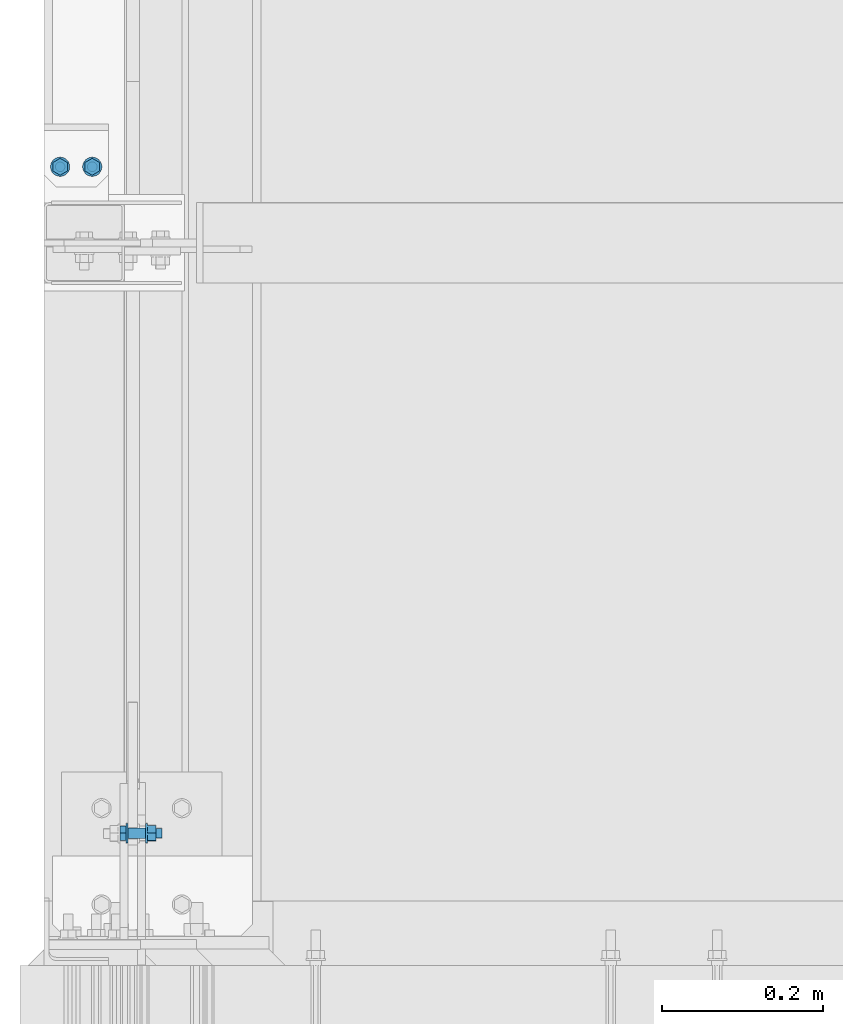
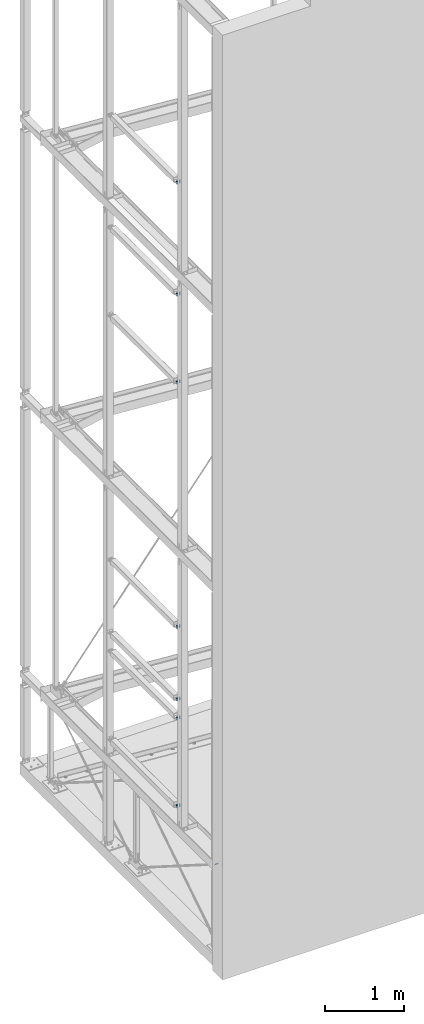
# One storey, part 230 of 271: 8 mechanical fasteners, 8 elements without a shape of their own.
"""IFC2X3 building model written with IfcOpenShell, lengths in millimetres."""

import ifcopenshell
import ifcopenshell.guid

model = None  # the IFC model being written
_history = None  # IfcOwnerHistory: only IFC2X3 demands one
_inside = {}  # id of a spatial element -> (the spatial element, [elements in it])
_under = {}  # id of a project, library or spatial element -> (it, [spatial elements below it])
_declared = {}  # id of a project -> (the project, [libraries it declares])
_typed = {}  # id of a type object -> (the type object, [elements of that type])
_made_of = {}  # id of a material, layer set ... -> (it, [elements and type objects made of it])


def new_model(schema):
    """Start an empty IFC model of exactly this schema.

    Asked for "IFC4X3", IfcOpenShell would pick the latest addendum, in which some entities
    have other attributes; the version numbers below select the first issue.
    IFC2X3 requires an IfcOwnerHistory on every rooted entity: one is made here for all.
    """
    global model, _history
    if schema == "IFC4X3":
        model = ifcopenshell.file(schema_version=(4, 3, 0, 0))
    else:
        model = ifcopenshell.file(schema=schema)
    _inside.clear()
    _under.clear()
    _declared.clear()
    _typed.clear()
    _made_of.clear()
    _history = None
    if model.schema == "IFC2X3":
        org = make("IfcOrganization", Name="unknown")
        user = make(
            "IfcPersonAndOrganization",
            ThePerson=make("IfcPerson", FamilyName="unknown"),
            TheOrganization=org,
        )
        app = make(
            "IfcApplication",
            ApplicationDeveloper=org,
            Version="unknown",
            ApplicationFullName="unknown",
            ApplicationIdentifier="unknown",
        )
        _history = make(
            "IfcOwnerHistory",
            OwningUser=user,
            OwningApplication=app,
            ChangeAction="ADDED",
            CreationDate=0,
        )
    return model


def make(cls, **values):
    """One entity of the class cls with the attributes given. An attribute that is None is left unset."""
    return model.create_entity(
        cls, **{name: value for name, value in values.items() if value is not None}
    )


def rooted(cls, **values):
    """An entity with a GlobalId (a new one), such as an element, a storey or a relation."""
    return make(cls, GlobalId=ifcopenshell.guid.new(), OwnerHistory=_history, **values)


def si_unit(unit_type, name, prefix=None):
    """IfcSIUnit, for example si_unit("LENGTHUNIT", "METRE", prefix="MILLI")."""
    return make("IfcSIUnit", UnitType=unit_type, Prefix=prefix, Name=name)


def assignment(units):
    """IfcUnitAssignment: the units of a project."""
    return None if units is None else make("IfcUnitAssignment", Units=units)


def point(xyz):
    """IfcCartesianPoint."""
    return None if xyz is None else make("IfcCartesianPoint", Coordinates=xyz)


def direction(xyz):
    """IfcDirection."""
    return None if xyz is None else make("IfcDirection", DirectionRatios=xyz)


def frame(location, z_axis=None, x_axis=None):
    """IfcAxis2Placement3D, a coordinate frame: its origin and axes. An axis left out is left unset."""
    return make(
        "IfcAxis2Placement3D",
        Location=point(location),
        Axis=direction(z_axis),
        RefDirection=direction(x_axis),
    )


def frame_2d(location, x_axis=None):
    """IfcAxis2Placement2D, a coordinate frame in the plane: its origin and x axis."""
    return make(
        "IfcAxis2Placement2D", Location=point(location), RefDirection=direction(x_axis)
    )


def origin_with_axes():
    """The frame at (0, 0, 0) with the z axis (0, 0, 1) and the x axis (1, 0, 0) written out."""
    return frame((0.0, 0.0, 0.0), z_axis=(0.0, 0.0, 1.0), x_axis=(1.0, 0.0, 0.0))


def origin_2d_with_axis():
    """The frame at (0, 0) in the plane with the x axis (1, 0) written out."""
    return frame_2d((0.0, 0.0), x_axis=(1.0, 0.0))


def place(relative_to, where):
    """IfcLocalPlacement: puts the frame where relative to a parent placement (None: the world)."""
    return make(
        "IfcLocalPlacement", PlacementRelTo=relative_to, RelativePlacement=where
    )


def context(
    kind, dimensions, precision=None, world=None, true_north=None, identifier=None
):
    """IfcGeometricRepresentationContext, for example the 3D "Model" context."""
    return make(
        "IfcGeometricRepresentationContext",
        ContextIdentifier=identifier,
        ContextType=kind,
        CoordinateSpaceDimension=dimensions,
        Precision=precision,
        WorldCoordinateSystem=world,
        TrueNorth=true_north,
    )


def subcontext(parent, identifier, kind, view, scale=None):
    """IfcGeometricRepresentationSubContext, for example "Body" below "Model"."""
    return make(
        "IfcGeometricRepresentationSubContext",
        ContextIdentifier=identifier,
        ContextType=kind,
        ParentContext=parent,
        TargetScale=scale,
        TargetView=view,
    )


def project(units=None, contexts=None):
    """IfcProject with its units and contexts."""
    return rooted(
        "IfcProject",
        Name="project",
        RepresentationContexts=contexts,
        UnitsInContext=assignment(units),
    )


def spatial(cls, under=None, at=None, **own):
    """A site, building, storey or space (cls), placed at a placement, below another one or the project."""
    s = rooted(cls, ObjectPlacement=at, **own)
    if under is not None:
        _under.setdefault(under.id(), (under, []))[1].append(s)
    return s


def polyline(points):
    """IfcPolyline through the points."""
    return make("IfcPolyline", Points=[point(p) for p in points])


def profile(cls, at=None, kind="AREA", **sizes):
    """A parametric profile (cls). Its sizes go by their IFC names, for example OverallWidth=200.0."""
    return make(cls, ProfileType=kind, Position=at, **sizes)


def circle(**sizes):
    """IfcCircleProfileDef."""
    return profile("IfcCircleProfileDef", **sizes)


def outline(outer, holes=None, kind="AREA"):
    """IfcArbitraryClosedProfileDef: a profile drawn as a closed curve; with holes, ...WithVoids."""
    if holes is None:
        return make("IfcArbitraryClosedProfileDef", ProfileType=kind, OuterCurve=outer)
    return make(
        "IfcArbitraryProfileDefWithVoids",
        ProfileType=kind,
        OuterCurve=outer,
        InnerCurves=holes,
    )


def extrude(swept, where, along, depth):
    """IfcExtrudedAreaSolid: the profile swept, set in the frame where, extruded along a direction by depth."""
    return make(
        "IfcExtrudedAreaSolid",
        SweptArea=swept,
        Position=where,
        ExtrudedDirection=direction(along),
        Depth=depth,
    )


def shape(context_of_items, identifier, shape_type, items):
    """IfcShapeRepresentation: the items that make up one representation, for example the "Body"."""
    return make(
        "IfcShapeRepresentation",
        ContextOfItems=context_of_items,
        RepresentationIdentifier=identifier,
        RepresentationType=shape_type,
        Items=items,
    )


def source(mapping_origin, context_of_items, identifier, shape_type, items):
    """IfcRepresentationMap: a shape defined once, which mapped items show again and again."""
    return make(
        "IfcRepresentationMap",
        MappingOrigin=mapping_origin,
        MappedRepresentation=shape(context_of_items, identifier, shape_type, items),
    )


def transform(
    local_origin,
    x_axis=None,
    y_axis=None,
    z_axis=None,
    scale=None,
    scale2=None,
    scale3=None,
    uniform=True,
):
    """IfcCartesianTransformationOperator3D, or its non-uniform kind. x_axis, y_axis, z_axis: its Axis1, 2, 3."""
    if uniform:
        return make(
            "IfcCartesianTransformationOperator3D",
            Axis1=direction(x_axis),
            Axis2=direction(y_axis),
            LocalOrigin=point(local_origin),
            Scale=scale,
            Axis3=direction(z_axis),
        )
    return make(
        "IfcCartesianTransformationOperator3DnonUniform",
        Axis1=direction(x_axis),
        Axis2=direction(y_axis),
        LocalOrigin=point(local_origin),
        Scale=scale,
        Axis3=direction(z_axis),
        Scale2=scale2,
        Scale3=scale3,
    )


def mapped(mapping_source, mapping_target):
    """IfcMappedItem: shows the shape of a source again, moved by a transform."""
    return make(
        "IfcMappedItem", MappingSource=mapping_source, MappingTarget=mapping_target
    )


def material(Name=None, Category=None):
    """IfcMaterial."""
    return make("IfcMaterial", Name=Name, Category=Category)


def made_of(thing, what):
    """Note that an element or type object is made of a material, layer set ...; save() writes the relation."""
    if what is not None:
        _made_of.setdefault(what.id(), (what, []))[1].append(thing)
    return thing


def type_object(cls, material=None, **own):
    """A type object (cls), such as IfcWallType, which elements share."""
    return made_of(rooted(cls, **own), material)


def element(
    cls,
    number,
    at=None,
    inside=None,
    cuts=None,
    type_object=None,
    material=None,
    context=None,
    identifier="Body",
    shape_type=None,
    held_by="IfcProductDefinitionShape",
    body=None,
    shapes=None,
    **own,
):
    """One element of the class cls, such as IfcWall. Its Tag is "e" and its number.

    at: its placement. inside: the storey or other place that contains it. cuts: it is an
    opening in that element (IfcRelVoidsElement). A single representation is given by context,
    identifier, shape_type and body (its items); several are given by shapes. held_by: the class
    of the entity that holds the representations. save() writes the other relations.
    """
    e = rooted(cls, Tag="e%d" % number, ObjectPlacement=at, **own)
    if body is not None:
        shapes = [shape(context, identifier, shape_type, body)]
    if shapes is not None:
        e.Representation = make(held_by, Representations=shapes)
    if inside is not None:
        _inside.setdefault(inside.id(), (inside, []))[1].append(e)
    if cuts is not None:
        rooted(
            "IfcRelVoidsElement", RelatingBuildingElement=cuts, RelatedOpeningElement=e
        )
    if type_object is not None:
        _typed.setdefault(type_object.id(), (type_object, []))[1].append(e)
    return made_of(e, material)


def aggregate(whole, parts):
    """IfcRelAggregates: a whole, such as a stair, and the parts it consists of."""
    return rooted("IfcRelAggregates", RelatingObject=whole, RelatedObjects=parts)


def save(model, path):
    """Write the relations noted so far, then the file.

    IfcRelAggregates (storeys below a building ...), IfcRelContainedInSpatialStructure (elements
    in a storey), IfcRelDefinesByType, IfcRelAssociatesMaterial and IfcRelDeclares: one each for
    every whole, place, type object, material and project.
    """
    for whole, parts in _under.values():
        aggregate(whole, parts)
    for where, things in _inside.values():
        rooted(
            "IfcRelContainedInSpatialStructure",
            RelatedElements=things,
            RelatingStructure=where,
        )
    for kind, things in _typed.values():
        rooted("IfcRelDefinesByType", RelatedObjects=things, RelatingType=kind)
    for what, things in _made_of.values():
        rooted("IfcRelAssociatesMaterial", RelatedObjects=things, RelatingMaterial=what)
    for by, libraries in _declared.values():
        rooted("IfcRelDeclares", RelatingContext=by, RelatedDefinitions=libraries)
    model.write(path)


model = new_model("IFC2X3")

# Units and contexts
model_context = context("Model", 3, precision=1e-05, world=origin_with_axes())
body_context = subcontext(model_context, "Body", "Model", "MODEL_VIEW")
ifc_project = project(units=[si_unit("LENGTHUNIT", "METRE", prefix="MILLI"), si_unit("AREAUNIT", "SQUARE_METRE"), si_unit("VOLUMEUNIT", "CUBIC_METRE"), si_unit("MASSUNIT", "GRAM", prefix="KILO"), si_unit("TIMEUNIT", "SECOND"), si_unit("PLANEANGLEUNIT", "RADIAN"), si_unit("SOLIDANGLEUNIT", "STERADIAN"), si_unit("THERMODYNAMICTEMPERATUREUNIT", "DEGREE_CELSIUS"), si_unit("LUMINOUSINTENSITYUNIT", "LUMEN")], contexts=[model_context])

# Site, building, storey
site_placement = place(None, origin_with_axes())
site = spatial("IfcSite", under=ifc_project, at=site_placement, Name="Undefined", CompositionType="ELEMENT")
building_placement = place(site_placement, origin_with_axes())
building = spatial("IfcBuilding", under=site, at=building_placement, Name="Undefined", CompositionType="ELEMENT")
storey_placement = place(building_placement, origin_with_axes())
storey = spatial("IfcBuildingStorey", under=building, at=storey_placement, Name="Undefined", CompositionType="ELEMENT", Elevation=0.0)

# Assembly, mechanical fastener
assembly_1_placement = place(storey_placement, origin_with_axes())
assembly_1 = element("IfcElementAssembly", 1, at=assembly_1_placement, inside=storey, AssemblyPlace="NOTDEFINED", PredefinedType="RIGID_FRAME")
ifc_material = material(Name="Undefined")
mechanical_fastener_type = type_object("IfcMechanicalFastenerType", Name="Bolt assembly")
shared_shape_1 = source(origin_with_axes(), body_context, "Body", "SweptSolid", [
    extrude(circle(Radius=6.5, at=origin_2d_with_axis()), frame((0.0, -5.1, 0.0), z_axis=(0.0, 1.0, 0.0), x_axis=(1.0, 0.0, 0.0)), (0.0, 0.0, 1.0), 10.1),
    extrude(circle(Radius=6.5, at=origin_2d_with_axis()), frame((0.0, -16.9, 0.0), z_axis=(0.0, 1.0, 0.0), x_axis=(1.0, 0.0, 0.0)), (0.0, 0.0, 1.0), 12.0),
    extrude(outline(polyline([(10.39230484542, 0.0), (5.19615242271, 9.00000000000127), (-5.19615242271, 9.00000000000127), (-10.39230484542, 0.0), (-5.19615242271, -9.00000000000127), (5.19615242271, -9.00000000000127), (10.39230484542, 0.0)])), frame((0.0, -27.0, 0.0), z_axis=(0.0, 1.0, 0.0), x_axis=(1.0, 0.0, 0.0)), (0.0, 0.0, 1.0), 7.5),
    extrude(circle(Radius=6.0, at=origin_2d_with_axis()), frame((0.0, -19.5, 0.0), z_axis=(0.0, 1.0, 0.0), x_axis=(1.0, 0.0, 0.0)), (0.0, 0.0, 1.0), 45.0),
    extrude(circle(Radius=12.0, at=origin_2d_with_axis()), frame((0.0, -19.5, 0.0), z_axis=(0.0, 1.0, 0.0), x_axis=(1.0, 0.0, 0.0)), (0.0, 0.0, 1.0), 2.5),
    extrude(circle(Radius=12.0, at=origin_2d_with_axis()), frame((0.0, 5.00000000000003, 0.0), z_axis=(0.0, 1.0, 0.0), x_axis=(1.0, 0.0, 0.0)), (0.0, 0.0, 1.0), 2.5),
    extrude(outline(polyline([(10.96965511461, 0.0), (5.484827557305, 9.50000000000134), (-5.484827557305, 9.50000000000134), (-10.96965511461, 0.0), (-5.484827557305, -9.50000000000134), (5.484827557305, -9.50000000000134), (10.96965511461, 0.0)])), frame((0.0, 7.50000000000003, 0.0), z_axis=(0.0, 1.0, 0.0), x_axis=(1.0, 0.0, 0.0)), (0.0, 0.0, 1.0), 10.0),
])
mechanical_fastener_1_placement = place(assembly_1_placement, frame((110.000000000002, 163.79485304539, 1274.0182202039), z_axis=(0.0, -0.535126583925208, -0.844771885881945), x_axis=(0.0, 0.84477188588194, -0.535126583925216)))
mechanical_fastener_1 = element("IfcMechanicalFastener", 2, at=mechanical_fastener_1_placement, type_object=mechanical_fastener_type, material=ifc_material, Name="Bolt assembly", NominalDiameter=12.0, NominalLength=45.0, context=body_context, shape_type="MappedRepresentation", body=[
    mapped(shared_shape_1, transform((0.0, 0.0, 0.0))),
])
aggregate(assembly_1, [mechanical_fastener_1])

assembly_2_placement = place(storey_placement, origin_with_axes())
assembly_2 = element("IfcElementAssembly", 3, at=assembly_2_placement, inside=storey, AssemblyPlace="NOTDEFINED", PredefinedType="RIGID_FRAME")
shared_shape_2 = source(origin_with_axes(), body_context, "Body", "SweptSolid", [
    extrude(circle(Radius=6.5, at=origin_2d_with_axis()), frame((0.0, -5.1, 0.0), z_axis=(0.0, 1.0, 0.0), x_axis=(1.0, 0.0, 0.0)), (0.0, 0.0, 1.0), 10.1),
    extrude(circle(Radius=6.5, at=origin_2d_with_axis()), frame((0.0, -14.9000000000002, 0.0), z_axis=(0.0, 1.0, 0.0), x_axis=(1.0, 0.0, 0.0)), (0.0, 0.0, 1.0), 10.0),
    extrude(outline(polyline([(10.39230484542, 0.0), (5.19615242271, 9.00000000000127), (-5.19615242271, 9.00000000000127), (-10.39230484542, 0.0), (-5.19615242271, -9.00000000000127), (5.19615242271, -9.00000000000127), (10.39230484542, 0.0)])), frame((0.0, -25.0000000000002, 0.0), z_axis=(0.0, 1.0, 0.0), x_axis=(1.0, 0.0, 0.0)), (0.0, 0.0, 1.0), 7.5),
    extrude(circle(Radius=6.0, at=origin_2d_with_axis()), frame((0.0, -17.5000000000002, 0.0), z_axis=(0.0, 1.0, 0.0), x_axis=(1.0, 0.0, 0.0)), (0.0, 0.0, 1.0), 40.0),
    extrude(circle(Radius=12.0, at=origin_2d_with_axis()), frame((0.0, -17.5000000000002, 0.0), z_axis=(0.0, 1.0, 0.0), x_axis=(1.0, 0.0, 0.0)), (0.0, 0.0, 1.0), 2.5),
    extrude(circle(Radius=12.0, at=origin_2d_with_axis()), frame((0.0, 5.00000000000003, 0.0), z_axis=(0.0, 1.0, 0.0), x_axis=(1.0, 0.0, 0.0)), (0.0, 0.0, 1.0), 2.5),
    extrude(outline(polyline([(10.96965511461, 0.0), (5.484827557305, 9.50000000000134), (-5.484827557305, 9.50000000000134), (-10.96965511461, 0.0), (-5.484827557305, -9.50000000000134), (5.484827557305, -9.50000000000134), (10.96965511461, 0.0)])), frame((0.0, 7.50000000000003, 0.0), z_axis=(0.0, 1.0, 0.0), x_axis=(1.0, 0.0, 0.0)), (0.0, 0.0, 1.0), 10.0),
])
mechanical_fastener_2_placement = place(assembly_2_placement, frame((28.375687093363, 994.052119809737, 4488.8500000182), z_axis=(-1.0, 0.0, 1.38777878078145e-17), x_axis=(0.0, 1.0, 0.0)))
mechanical_fastener_2 = element("IfcMechanicalFastener", 4, at=mechanical_fastener_2_placement, type_object=mechanical_fastener_type, material=ifc_material, Name="Bolt assembly", NominalDiameter=12.0, NominalLength=40.0, context=body_context, shape_type="MappedRepresentation", body=[
    mapped(shared_shape_2, transform((0.0, 0.0, -20.0))),
    mapped(shared_shape_2, transform((0.0, 0.0, 20.0))),
])
aggregate(assembly_2, [mechanical_fastener_2])

assembly_3_placement = place(storey_placement, origin_with_axes())
assembly_3 = element("IfcElementAssembly", 5, at=assembly_3_placement, inside=storey, AssemblyPlace="NOTDEFINED", PredefinedType="RIGID_FRAME")
mechanical_fastener_3_placement = place(assembly_3_placement, frame((28.375687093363, 994.052119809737, 3368.8500000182), z_axis=(1.0, 0.0, 0.0), x_axis=(0.0, 1.0, 0.0)))
mechanical_fastener_3 = element("IfcMechanicalFastener", 6, at=mechanical_fastener_3_placement, type_object=mechanical_fastener_type, material=ifc_material, Name="Bolt assembly", NominalDiameter=12.0, NominalLength=40.0, context=body_context, shape_type="MappedRepresentation", body=[
    mapped(shared_shape_2, transform((0.0, 0.0, -20.0))),
    mapped(shared_shape_2, transform((0.0, 0.0, 20.0))),
])
aggregate(assembly_3, [mechanical_fastener_3])

assembly_4_placement = place(storey_placement, origin_with_axes())
assembly_4 = element("IfcElementAssembly", 7, at=assembly_4_placement, inside=storey, AssemblyPlace="NOTDEFINED", PredefinedType="RIGID_FRAME")
mechanical_fastener_4_placement = place(assembly_4_placement, frame((28.375687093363, 994.052119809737, 3069.3500000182), z_axis=(-1.0, 0.0, 1.38777878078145e-17), x_axis=(0.0, 1.0, 0.0)))
mechanical_fastener_4 = element("IfcMechanicalFastener", 8, at=mechanical_fastener_4_placement, type_object=mechanical_fastener_type, material=ifc_material, Name="Bolt assembly", NominalDiameter=12.0, NominalLength=40.0, context=body_context, shape_type="MappedRepresentation", body=[
    mapped(shared_shape_2, transform((0.0, 0.0, -20.0))),
    mapped(shared_shape_2, transform((0.0, 0.0, 20.0))),
])
aggregate(assembly_4, [mechanical_fastener_4])

assembly_5_placement = place(storey_placement, origin_with_axes())
assembly_5 = element("IfcElementAssembly", 9, at=assembly_5_placement, inside=storey, AssemblyPlace="NOTDEFINED", PredefinedType="RIGID_FRAME")
mechanical_fastener_5_placement = place(assembly_5_placement, frame((28.375687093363, 994.052119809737, 1709.3500000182), z_axis=(1.0, 0.0, 0.0), x_axis=(0.0, 1.0, 0.0)))
mechanical_fastener_5 = element("IfcMechanicalFastener", 10, at=mechanical_fastener_5_placement, type_object=mechanical_fastener_type, material=ifc_material, Name="Bolt assembly", NominalDiameter=12.0, NominalLength=40.0, context=body_context, shape_type="MappedRepresentation", body=[
    mapped(shared_shape_2, transform((0.0, 0.0, -20.0))),
    mapped(shared_shape_2, transform((0.0, 0.0, 20.0))),
])
aggregate(assembly_5, [mechanical_fastener_5])

assembly_6_placement = place(storey_placement, origin_with_axes())
assembly_6 = element("IfcElementAssembly", 11, at=assembly_6_placement, inside=storey, AssemblyPlace="NOTDEFINED", PredefinedType="RIGID_FRAME")
mechanical_fastener_6_placement = place(assembly_6_placement, frame((28.375687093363, 994.052119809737, 9659.84999990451), z_axis=(-1.0, 0.0, 1.38777878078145e-17), x_axis=(0.0, 1.0, 0.0)))
mechanical_fastener_6 = element("IfcMechanicalFastener", 12, at=mechanical_fastener_6_placement, type_object=mechanical_fastener_type, material=ifc_material, Name="Bolt assembly", NominalDiameter=12.0, NominalLength=40.0, context=body_context, shape_type="MappedRepresentation", body=[
    mapped(shared_shape_2, transform((0.0, 0.0, -20.0))),
    mapped(shared_shape_2, transform((0.0, 0.0, 20.0))),
])
aggregate(assembly_6, [mechanical_fastener_6])

assembly_7_placement = place(storey_placement, origin_with_axes())
assembly_7 = element("IfcElementAssembly", 13, at=assembly_7_placement, inside=storey, AssemblyPlace="NOTDEFINED", PredefinedType="RIGID_FRAME")
mechanical_fastener_7_placement = place(assembly_7_placement, frame((28.375687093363, 994.052119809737, 8299.84999990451), z_axis=(1.0, 0.0, 0.0), x_axis=(0.0, 1.0, 0.0)))
mechanical_fastener_7 = element("IfcMechanicalFastener", 14, at=mechanical_fastener_7_placement, type_object=mechanical_fastener_type, material=ifc_material, Name="Bolt assembly", NominalDiameter=12.0, NominalLength=40.0, context=body_context, shape_type="MappedRepresentation", body=[
    mapped(shared_shape_2, transform((0.0, 0.0, -20.0))),
    mapped(shared_shape_2, transform((0.0, 0.0, 20.0))),
])
aggregate(assembly_7, [mechanical_fastener_7])

assembly_8_placement = place(storey_placement, origin_with_axes())
assembly_8 = element("IfcElementAssembly", 15, at=assembly_8_placement, inside=storey, AssemblyPlace="NOTDEFINED", PredefinedType="RIGID_FRAME")
mechanical_fastener_8_placement = place(assembly_8_placement, frame((28.375687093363, 994.052119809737, 11401.8499999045), z_axis=(-1.0, 0.0, 1.38777878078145e-17), x_axis=(0.0, 1.0, 0.0)))
mechanical_fastener_8 = element("IfcMechanicalFastener", 16, at=mechanical_fastener_8_placement, type_object=mechanical_fastener_type, material=ifc_material, Name="Bolt assembly", NominalDiameter=12.0, NominalLength=40.0, context=body_context, shape_type="MappedRepresentation", body=[
    mapped(shared_shape_2, transform((0.0, 0.0, -20.0))),
    mapped(shared_shape_2, transform((0.0, 0.0, 20.0))),
])
aggregate(assembly_8, [mechanical_fastener_8])

save(model, "model.ifc")
